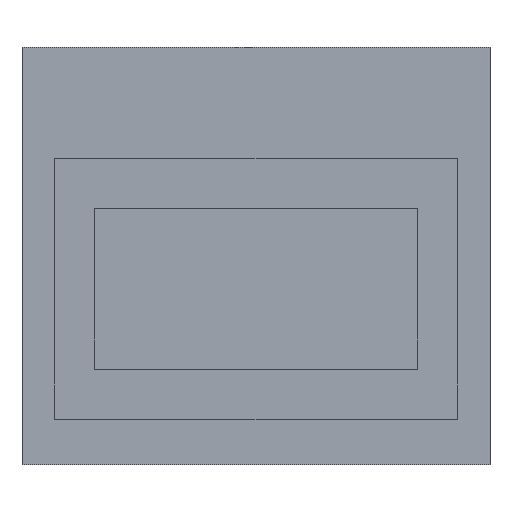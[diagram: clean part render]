
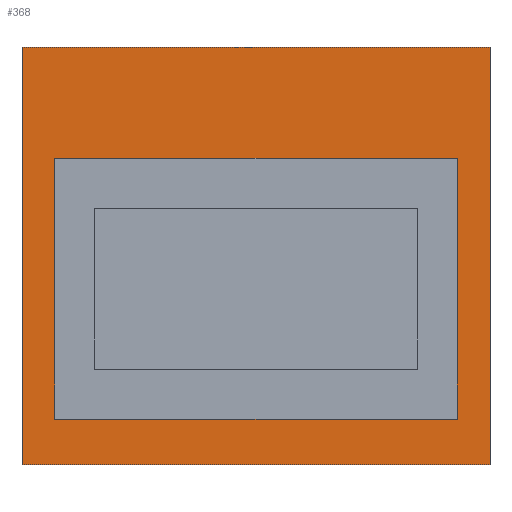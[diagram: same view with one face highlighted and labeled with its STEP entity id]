
A CAD part, top view. The second image highlights one B-rep face of the part: STEP entity #368.
In plain terms, the highlighted planar face has unit normal (0, 0, 1).
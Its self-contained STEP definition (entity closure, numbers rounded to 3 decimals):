
#54 = VERTEX_POINT('',#55);
#55 = CARTESIAN_POINT('',(-15.7,-14.,7.6));
#62 = PLANE('',#63);
#63 = AXIS2_PLACEMENT_3D('',#64,#65,#66);
#64 = CARTESIAN_POINT('',(-15.7,-14.,6.));
#65 = DIRECTION('',(1.,0.,0.));
#66 = DIRECTION('',(0.,0.,1.));
#74 = PLANE('',#75);
#75 = AXIS2_PLACEMENT_3D('',#76,#77,#78);
#76 = CARTESIAN_POINT('',(-15.7,-14.,6.));
#77 = DIRECTION('',(0.,1.,0.));
#78 = DIRECTION('',(0.,0.,1.));
#115 = VERTEX_POINT('',#116);
#116 = CARTESIAN_POINT('',(-15.7,14.,7.6));
#130 = PLANE('',#131);
#131 = AXIS2_PLACEMENT_3D('',#132,#133,#134);
#132 = CARTESIAN_POINT('',(-15.7,14.,6.));
#133 = DIRECTION('',(0.,1.,0.));
#134 = DIRECTION('',(0.,0.,1.));
#142 = EDGE_CURVE('',#54,#115,#143,.T.);
#143 = SURFACE_CURVE('',#144,(#148,#155),.PCURVE_S1.);
#144 = LINE('',#145,#146);
#145 = CARTESIAN_POINT('',(-15.7,-14.,7.6));
#146 = VECTOR('',#147,1.);
#147 = DIRECTION('',(0.,1.,0.));
#148 = PCURVE('',#62,#149);
#149 = DEFINITIONAL_REPRESENTATION('',(#150),#154);
#150 = LINE('',#151,#152);
#151 = CARTESIAN_POINT('',(1.6,0.));
#152 = VECTOR('',#153,1.);
#153 = DIRECTION('',(0.,-1.));
#154 = ( GEOMETRIC_REPRESENTATION_CONTEXT(2) 
PARAMETRIC_REPRESENTATION_CONTEXT() REPRESENTATION_CONTEXT('2D SPACE',''
  ) );
#155 = PCURVE('',#156,#161);
#156 = PLANE('',#157);
#157 = AXIS2_PLACEMENT_3D('',#158,#159,#160);
#158 = CARTESIAN_POINT('',(-15.7,-14.,7.6));
#159 = DIRECTION('',(0.,0.,1.));
#160 = DIRECTION('',(1.,0.,0.));
#161 = DEFINITIONAL_REPRESENTATION('',(#162),#166);
#162 = LINE('',#163,#164);
#163 = CARTESIAN_POINT('',(0.,0.));
#164 = VECTOR('',#165,1.);
#165 = DIRECTION('',(0.,1.));
#166 = ( GEOMETRIC_REPRESENTATION_CONTEXT(2) 
PARAMETRIC_REPRESENTATION_CONTEXT() REPRESENTATION_CONTEXT('2D SPACE',''
  ) );
#174 = VERTEX_POINT('',#175);
#175 = CARTESIAN_POINT('',(15.7,-14.,7.6));
#182 = PLANE('',#183);
#183 = AXIS2_PLACEMENT_3D('',#184,#185,#186);
#184 = CARTESIAN_POINT('',(15.7,-14.,6.));
#185 = DIRECTION('',(1.,0.,0.));
#186 = DIRECTION('',(0.,0.,1.));
#225 = VERTEX_POINT('',#226);
#226 = CARTESIAN_POINT('',(15.7,14.,7.6));
#247 = EDGE_CURVE('',#174,#225,#248,.T.);
#248 = SURFACE_CURVE('',#249,(#253,#260),.PCURVE_S1.);
#249 = LINE('',#250,#251);
#250 = CARTESIAN_POINT('',(15.7,-14.,7.6));
#251 = VECTOR('',#252,1.);
#252 = DIRECTION('',(0.,1.,0.));
#253 = PCURVE('',#182,#254);
#254 = DEFINITIONAL_REPRESENTATION('',(#255),#259);
#255 = LINE('',#256,#257);
#256 = CARTESIAN_POINT('',(1.6,0.));
#257 = VECTOR('',#258,1.);
#258 = DIRECTION('',(0.,-1.));
#259 = ( GEOMETRIC_REPRESENTATION_CONTEXT(2) 
PARAMETRIC_REPRESENTATION_CONTEXT() REPRESENTATION_CONTEXT('2D SPACE',''
  ) );
#260 = PCURVE('',#156,#261);
#261 = DEFINITIONAL_REPRESENTATION('',(#262),#266);
#262 = LINE('',#263,#264);
#263 = CARTESIAN_POINT('',(31.4,0.));
#264 = VECTOR('',#265,1.);
#265 = DIRECTION('',(0.,1.));
#266 = ( GEOMETRIC_REPRESENTATION_CONTEXT(2) 
PARAMETRIC_REPRESENTATION_CONTEXT() REPRESENTATION_CONTEXT('2D SPACE',''
  ) );
#293 = EDGE_CURVE('',#54,#174,#294,.T.);
#294 = SURFACE_CURVE('',#295,(#299,#306),.PCURVE_S1.);
#295 = LINE('',#296,#297);
#296 = CARTESIAN_POINT('',(-15.7,-14.,7.6));
#297 = VECTOR('',#298,1.);
#298 = DIRECTION('',(1.,0.,0.));
#299 = PCURVE('',#74,#300);
#300 = DEFINITIONAL_REPRESENTATION('',(#301),#305);
#301 = LINE('',#302,#303);
#302 = CARTESIAN_POINT('',(1.6,0.));
#303 = VECTOR('',#304,1.);
#304 = DIRECTION('',(0.,1.));
#305 = ( GEOMETRIC_REPRESENTATION_CONTEXT(2) 
PARAMETRIC_REPRESENTATION_CONTEXT() REPRESENTATION_CONTEXT('2D SPACE',''
  ) );
#306 = PCURVE('',#156,#307);
#307 = DEFINITIONAL_REPRESENTATION('',(#308),#312);
#308 = LINE('',#309,#310);
#309 = CARTESIAN_POINT('',(0.,0.));
#310 = VECTOR('',#311,1.);
#311 = DIRECTION('',(1.,0.));
#312 = ( GEOMETRIC_REPRESENTATION_CONTEXT(2) 
PARAMETRIC_REPRESENTATION_CONTEXT() REPRESENTATION_CONTEXT('2D SPACE',''
  ) );
#340 = EDGE_CURVE('',#115,#225,#341,.T.);
#341 = SURFACE_CURVE('',#342,(#346,#353),.PCURVE_S1.);
#342 = LINE('',#343,#344);
#343 = CARTESIAN_POINT('',(-15.7,14.,7.6));
#344 = VECTOR('',#345,1.);
#345 = DIRECTION('',(1.,0.,0.));
#346 = PCURVE('',#130,#347);
#347 = DEFINITIONAL_REPRESENTATION('',(#348),#352);
#348 = LINE('',#349,#350);
#349 = CARTESIAN_POINT('',(1.6,0.));
#350 = VECTOR('',#351,1.);
#351 = DIRECTION('',(0.,1.));
#352 = ( GEOMETRIC_REPRESENTATION_CONTEXT(2) 
PARAMETRIC_REPRESENTATION_CONTEXT() REPRESENTATION_CONTEXT('2D SPACE',''
  ) );
#353 = PCURVE('',#156,#354);
#354 = DEFINITIONAL_REPRESENTATION('',(#355),#359);
#355 = LINE('',#356,#357);
#356 = CARTESIAN_POINT('',(0.,28.));
#357 = VECTOR('',#358,1.);
#358 = DIRECTION('',(1.,0.));
#359 = ( GEOMETRIC_REPRESENTATION_CONTEXT(2) 
PARAMETRIC_REPRESENTATION_CONTEXT() REPRESENTATION_CONTEXT('2D SPACE',''
  ) );
#368 = ADVANCED_FACE('',(#369),#156,.T.);
#369 = FACE_BOUND('',#370,.T.);
#370 = EDGE_LOOP('',(#371,#372,#373,#374));
#371 = ORIENTED_EDGE('',*,*,#142,.F.);
#372 = ORIENTED_EDGE('',*,*,#293,.T.);
#373 = ORIENTED_EDGE('',*,*,#247,.T.);
#374 = ORIENTED_EDGE('',*,*,#340,.F.);
